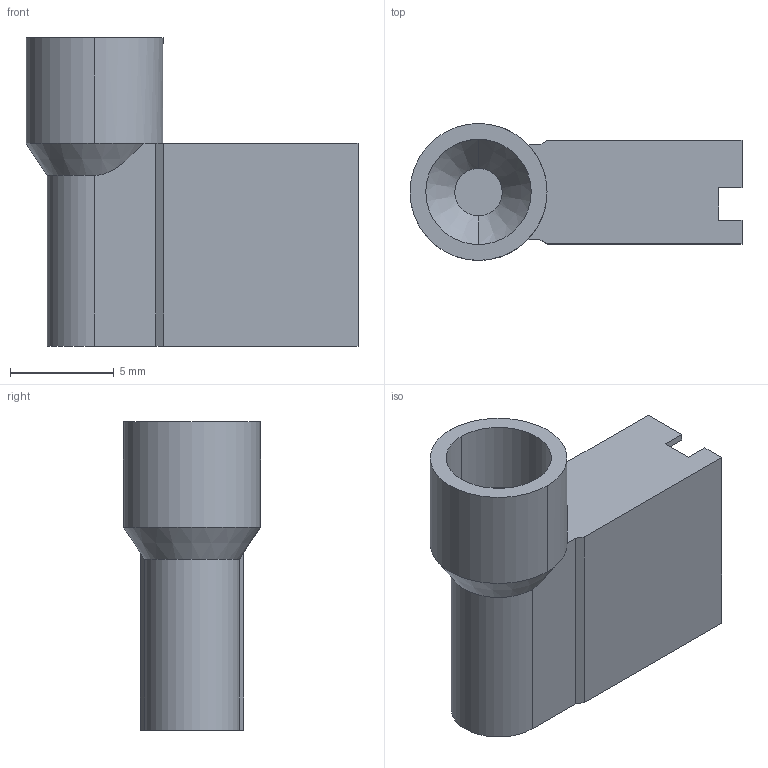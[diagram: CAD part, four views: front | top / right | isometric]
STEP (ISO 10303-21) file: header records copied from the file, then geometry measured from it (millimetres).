
FILE_DESCRIPTION((''),'2;1');
FILE_NAME('190070073','2015-09-15T',('me'),(''),'PRO/ENGINEER BY PARAMETRIC TECHNOLOGY CORPORATION, 2011490','PRO/ENGINEER BY PARAMETRIC TECHNOLOGY CORPORATION, 2011490','');
FILE_SCHEMA(('CONFIG_CONTROL_DESIGN'));
Length unit declared in the file: inch
Products named in the file (1): 190070073
Bounding box: 16 x 6.6 x 14.86 mm (x, y, z)
Volume: 524.7 mm3; surface area: 1289.9 mm2
Topology: 1 solids, 5 shells, 121 faces, 314 edges, 205 vertices
Faces by surface type: plane 87, cylinder 30, cone 4
Entity records: 3730 total; most frequent: CARTESIAN_POINT 682, ORIENTED_EDGE 626, DIRECTION 618, EDGE_CURVE 313, VECTOR 234, LINE 234, VERTEX_POINT 203, AXIS2_PLACEMENT_3D 192
